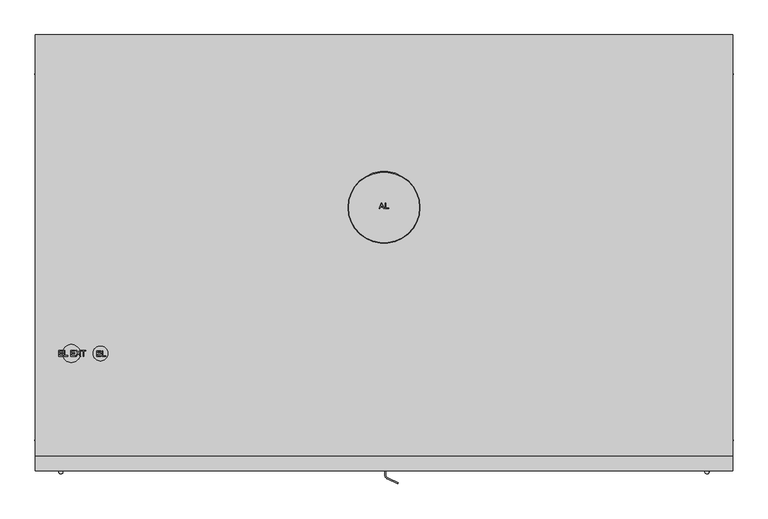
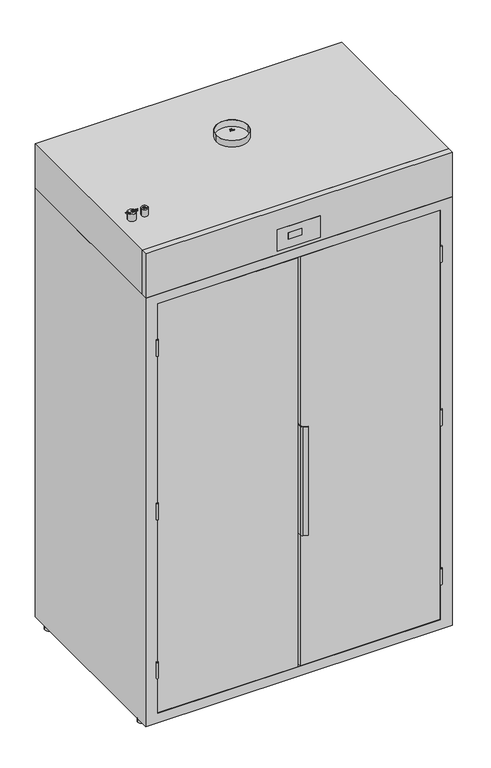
"""IFC4 building model written with IfcOpenShell, lengths in millimetres: proxy geometry, 12173360_EU_DC120WW : 52120001_EU_12173360_DC120WW."""

from ifc_helpers import new_model, si_unit, point, frame, frame_2d, origin, origin_with_axes, place, context, project, spatial, polyline, circle_curve, trimmed, segment, composite_curve, outline, extrude, faceted_brep, source, transform, mapped, element, save


def specialty_equipment_54005537(model_context):
    return source(origin(), model_context, "Body", "SolidModel", [
        extrude(outline(composite_curve([segment(trimmed(circle_curve(frame_2d((584.3887367, -697.3001502)), 15.9525445), [point((568.4361922, -697.3001502))], [point((600.3412813, -697.3001502))], False, "CARTESIAN"), True, "CONTINUOUS"), segment(trimmed(circle_curve(frame_2d((584.3887367, -697.3001502)), 15.9525445), [point((600.3412813, -697.3001502))], [point((568.4361922, -697.3001502))], False, "CARTESIAN"), True, "CONTINUOUS")], self_intersect=False)), origin_with_axes(), (0.0, 0.0, 1.0), 12.0900845),
        extrude(outline(composite_curve([segment(trimmed(circle_curve(frame_2d((-584.3887367, -697.3001502)), 15.9525445), [point((-600.3412813, -697.3001502))], [point((-568.4361922, -697.3001502))], False, "CARTESIAN"), True, "CONTINUOUS"), segment(trimmed(circle_curve(frame_2d((-584.3887367, -697.3001502)), 15.9525445), [point((-568.4361922, -697.3001502))], [point((-600.3412813, -697.3001502))], False, "CARTESIAN"), True, "CONTINUOUS")], self_intersect=False)), origin_with_axes(), (0.0, 0.0, 1.0), 12.0900845),
        extrude(outline(composite_curve([segment(trimmed(circle_curve(frame_2d((-584.3887367, -67.3001525)), 15.9968487), [point((-600.3855854, -67.3001525))], [point((-568.391888, -67.3001525))], False, "CARTESIAN"), True, "CONTINUOUS"), segment(trimmed(circle_curve(frame_2d((-584.3887367, -67.3001525)), 15.9968487), [point((-568.391888, -67.3001525))], [point((-600.3855854, -67.3001525))], False, "CARTESIAN"), True, "CONTINUOUS")], self_intersect=False)), origin_with_axes(), (0.0, 0.0, 1.0), 12.0900845),
        extrude(outline(composite_curve([segment(trimmed(circle_curve(frame_2d((584.3887367, -67.3001525)), 15.9807297), [point((568.4080071, -67.3001525))], [point((600.3694664, -67.3001525))], False, "CARTESIAN"), True, "CONTINUOUS"), segment(trimmed(circle_curve(frame_2d((584.3887367, -67.3001525)), 15.9807297), [point((600.3694664, -67.3001525))], [point((568.4080071, -67.3001525))], False, "CARTESIAN"), True, "CONTINUOUS")], self_intersect=False)), origin_with_axes(), (0.0, 0.0, 1.0), 12.0900845),
        extrude(outline(polyline([(11.7499399, -750.0), (-42.2500601, -750.0), (-42.2500601, -745.0), (11.7499399, -745.0), (11.7499399, -750.0)])), frame((0.0, 0.0, 1834.5900959), z_axis=(0.0, 0.0, 1.0), x_axis=(1.0, 0.0, 0.0)), (0.0, 0.0, 1.0), 26.9999322),
        extrude(outline(polyline([(1888.5900366, 83.7499399), (1888.5900366, -84.2500601), (1798.5899784, -84.2500601), (1798.5899784, 83.7499399), (1888.5900366, 83.7499399)]), holes=[polyline([(1861.5900281, 11.7499399), (1834.5900959, 11.7499399), (1834.5900959, -42.2500601), (1861.5900281, -42.2500601), (1861.5900281, 11.7499399)])]), frame((0.0, -750.0, 0.0), z_axis=(0.0, 1.0, 0.0), x_axis=(0.0, 0.0, 1.0)), (0.0, 0.0, 1.0), 5.0),
        extrude(outline(polyline([(-553.2057763, -0.8000794), (-5.0000599, -0.8000794), (-5.0000599, -20.0), (-553.2057763, -20.0), (-553.2057763, -0.8000794)])), frame((0.0, 0.0, 52.4706044), z_axis=(0.0, 0.0, 1.0), x_axis=(1.0, 0.0, 0.0)), (0.0, 0.0, 1.0), 1692.8839875),
        extrude(outline(polyline([(5.0999768, -0.8000794), (552.3004548, -0.8000794), (552.3004548, -20.0), (5.0999768, -20.0), (5.0999768, -0.8000794)])), frame((0.0, 0.0, 52.4706044), z_axis=(0.0, 0.0, 1.0), x_axis=(1.0, 0.0, 0.0)), (0.0, 0.0, 1.0), 1692.8839875),
        extrude(outline(polyline([(-5.0000599, -749.1999206), (-553.2057763, -749.1999206), (-553.2057763, -730.0), (-5.0000599, -730.0), (-5.0000599, -749.1999206)])), frame((0.0, 0.0, 52.4706044), z_axis=(0.0, 0.0, 1.0), x_axis=(1.0, 0.0, 0.0)), (0.0, 0.0, 1.0), 1692.8839875),
        extrude(outline(polyline([(552.3004548, -749.1999206), (5.0999768, -749.1999206), (5.0999768, -730.0), (552.3004548, -730.0), (552.3004548, -749.1999206)])), frame((0.0, 0.0, 52.4706044), z_axis=(0.0, 0.0, 1.0), x_axis=(1.0, 0.0, 0.0)), (0.0, 0.0, 1.0), 1692.8839875),
        faceted_brep([(600.0, 0.0, 1785.6678266), (-600.0, 0.0, 1785.6678266), (-600.0, -750.0, 1785.6678266), (600.0, -750.0, 1785.6678266), (600.0, 0.0, 12.0900845), (600.0, -750.0, 12.0900845), (-600.0, -750.0, 12.0900845), (-600.0, 0.0, 12.0900845), (552.3004548, 0.0, 1747.1501123), (-553.2057763, 0.0, 1747.1501123), (-553.2057763, 0.0, 51.1436193), (552.3004548, 0.0, 51.1436193), (-553.2057763, -750.0, 1747.1501123), (552.3004548, -750.0, 1747.1501123), (552.3004548, -750.0, 51.1436193), (-553.2057763, -750.0, 51.1436193), (552.3004548, -730.0, 1747.1501123), (-553.2057763, -730.0, 1747.1501123), (-553.2057763, -730.0, 51.1436193), (552.3004548, -730.0, 51.1436193), (552.3004548, -20.0, 1747.1501123), (552.3004548, -20.0, 51.1436193), (-553.2057763, -20.0, 51.1436193), (-553.2057763, -20.0, 1747.1501123)], [[[0, 1, 2, 3]], [[4, 5, 6, 7]], [[1, 0, 4, 7], [8, 9, 10, 11]], [[2, 1, 7, 6]], [[3, 2, 6, 5], [12, 13, 14, 15]], [[0, 3, 5, 4]], [[16, 17, 18, 19]], [[17, 16, 13, 12]], [[18, 17, 12, 15]], [[19, 18, 15, 14]], [[16, 19, 14, 13]], [[20, 21, 22, 23]], [[20, 23, 9, 8]], [[23, 22, 10, 9]], [[22, 21, 11, 10]], [[21, 20, 8, 11]]]),
        faceted_brep([(600.0, -725.84526, 1969.4224232), (-600.0, -725.84526, 1969.4224232), (-600.0, -750.0, 1969.4224232), (600.0, -750.0, 1969.4224232), (600.0, -725.84526, 1785.6678266), (600.0, -750.0, 1785.6678266), (-600.0, -750.0, 1785.6678266), (-600.0, -725.84526, 1785.6678266), (-84.2500601, -750.0, 1888.5900366), (83.7499399, -750.0, 1888.5900366), (83.7499399, -750.0, 1798.5899784), (-84.2500601, -750.0, 1798.5899784), (83.7499399, -745.0, 1888.5900366), (-84.2500601, -745.0, 1888.5900366), (-84.2500601, -745.0, 1798.5899784), (83.7499399, -745.0, 1798.5899784)], [[[0, 1, 2, 3]], [[4, 5, 6, 7]], [[1, 0, 4, 7]], [[2, 1, 7, 6]], [[3, 2, 6, 5], [8, 9, 10, 11]], [[0, 3, 5, 4]], [[12, 13, 14, 15]], [[13, 12, 9, 8]], [[14, 13, 8, 11]], [[15, 14, 11, 10]], [[12, 15, 10, 9]]]),
        extrude(outline(polyline([(600.0, 0.0), (600.0, -725.84526), (-600.0, -725.84526), (-600.0, 0.0), (600.0, 0.0)])), frame((0.0, 0.0, 1785.6678266), z_axis=(0.0, 0.0, 1.0), x_axis=(1.0, 0.0, 0.0)), (0.0, 0.0, 1.0), 183.7545966),
        extrude(outline(composite_curve([segment(polyline([(1.2999274, -722.2043963), (3.3220918, -722.2043963), (3.3220918, -757.3988413)]), True, "CONTINUOUS"), segment(trimmed(circle_curve(frame_2d((9.0328585, -757.3988413)), 5.7107667), [point((3.3220918, -757.3988413))], [point((6.7492802, -762.6331633))], True, "CARTESIAN"), True, "CONTINUOUS"), segment(polyline([(6.7492802, -762.6331633), (24.3505517, -770.840771), (23.5053152, -772.6533865), (5.9040437, -764.4457788)]), True, "CONTINUOUS"), segment(trimmed(circle_curve(frame_2d((9.296631, -757.2043963)), 7.9967037), [point((5.9040437, -764.4457788))], [point((1.2999274, -757.2043963))], False, "CARTESIAN"), True, "CONTINUOUS"), segment(polyline([(1.2999274, -757.2043963), (1.2999274, -722.2043963)]), True, "CONTINUOUS")], self_intersect=False)), frame((0.0, 0.0, 600.1494838), z_axis=(0.0, 0.0, 1.0), x_axis=(1.0, 0.0, 0.0)), (0.0, 0.0, 1.0), 450.0014684),
        extrude(outline(composite_curve([segment(trimmed(circle_curve(frame_2d((-555.6531514, -751.8665985)), 3.5338517), [point((-552.6524985, -750.0))], [point((-558.6538043, -750.0))], False, "CARTESIAN"), True, "CONTINUOUS"), segment(polyline([(-558.6538043, -750.0), (-552.6524985, -750.0)]), True, "CONTINUOUS")], self_intersect=False)), frame((0.0, 0.0, 856.8872749), z_axis=(0.0, 0.0, 1.0), x_axis=(1.0, 0.0, 0.0)), (0.0, 0.0, 1.0), 66.1712024),
        extrude(outline(composite_curve([segment(trimmed(circle_curve(frame_2d((-555.7885261, -751.8665985)), 3.5338517), [point((-552.7878732, -750.0))], [point((-558.789179, -750.0))], False, "CARTESIAN"), True, "CONTINUOUS"), segment(polyline([(-558.789179, -750.0), (-552.7878732, -750.0)]), True, "CONTINUOUS")], self_intersect=False)), frame((0.0, 0.0, 1533.5591163), z_axis=(0.0, 0.0, 1.0), x_axis=(1.0, 0.0, 0.0)), (0.0, 0.0, 1.0), 66.1712024),
        extrude(outline(composite_curve([segment(polyline([(552.3331265, -750.0), (558.3344323, -750.0)]), True, "CONTINUOUS"), segment(trimmed(circle_curve(frame_2d((555.3337794, -751.8665985)), 3.5338517), [point((558.3344323, -750.0))], [point((552.3331265, -750.0))], False, "CARTESIAN"), True, "CONTINUOUS")], self_intersect=False)), frame((0.0, 0.0, 1533.5279976), z_axis=(0.0, 0.0, 1.0), x_axis=(1.0, 0.0, 0.0)), (0.0, 0.0, 1.0), 66.1712024),
        extrude(outline(composite_curve([segment(polyline([(552.6524985, -750.0), (558.6538043, -750.0)]), True, "CONTINUOUS"), segment(trimmed(circle_curve(frame_2d((555.6531514, -751.8665985)), 3.5338517), [point((558.6538043, -750.0))], [point((552.6524985, -750.0))], False, "CARTESIAN"), True, "CONTINUOUS")], self_intersect=False)), frame((0.0, 0.0, 856.8872749), z_axis=(0.0, 0.0, 1.0), x_axis=(1.0, 0.0, 0.0)), (0.0, 0.0, 1.0), 66.1712024),
        extrude(outline(composite_curve([segment(polyline([(552.6524985, -750.0), (558.6538043, -750.0)]), True, "CONTINUOUS"), segment(trimmed(circle_curve(frame_2d((555.6531514, -751.8665985)), 3.5338517), [point((558.6538043, -750.0))], [point((552.6524985, -750.0))], False, "CARTESIAN"), True, "CONTINUOUS")], self_intersect=False)), frame((0.0, 0.0, 199.8034742), z_axis=(0.0, 0.0, 1.0), x_axis=(1.0, 0.0, 0.0)), (0.0, 0.0, 1.0), 66.1712024),
        extrude(outline(composite_curve([segment(trimmed(circle_curve(frame_2d((-555.6531514, -751.8665985)), 3.5338517), [point((-552.6524985, -750.0))], [point((-558.6538043, -750.0))], False, "CARTESIAN"), True, "CONTINUOUS"), segment(polyline([(-558.6538043, -750.0), (-552.6524985, -750.0)]), True, "CONTINUOUS")], self_intersect=False)), frame((0.0, 0.0, 199.8034742), z_axis=(0.0, 0.0, 1.0), x_axis=(1.0, 0.0, 0.0)), (0.0, 0.0, 1.0), 66.1712024),
        extrude(outline(polyline([(-494.173145, -553.7133435), (-494.173145, -543.6677125), (-486.9528478, -543.6677125), (-486.9528478, -544.9234163), (-492.9174412, -544.9234163), (-492.9174412, -547.905713), (-487.2667737, -547.905713), (-487.2667737, -549.1614169), (-492.9174412, -549.1614169), (-492.9174412, -552.4576396), (-486.7958848, -552.4576396), (-486.7958848, -553.7133435), (-494.173145, -553.7133435)])), frame((0.0, 0.0, 1999.4224232), z_axis=(0.0, 0.0, 1.0), x_axis=(1.0, 0.0, 0.0)), (0.0, 0.0, 1.0), 1.0),
        extrude(outline(polyline([(-484.912329, -553.7133435), (-484.912329, -543.6677125), (-483.6566251, -543.6677125), (-483.6566251, -552.4576396), (-478.6338096, -552.4576396), (-478.6338096, -553.7133435), (-484.912329, -553.7133435)])), frame((0.0, 0.0, 1999.4224232), z_axis=(0.0, 0.0, 1.0), x_axis=(1.0, 0.0, 0.0)), (0.0, 0.0, 1.0), 1.0),
        extrude(outline(polyline([(-559.5874686, -553.1798332), (-559.5874686, -543.1342021), (-552.3671713, -543.1342021), (-552.3671713, -544.389906), (-558.3317647, -544.389906), (-558.3317647, -547.3722027), (-552.6810973, -547.3722027), (-552.6810973, -548.6279066), (-558.3317647, -548.6279066), (-558.3317647, -551.9241293), (-552.2102083, -551.9241293), (-552.2102083, -553.1798332), (-559.5874686, -553.1798332)])), frame((0.0, 0.0, 1999.4224232), z_axis=(0.0, 0.0, 1.0), x_axis=(1.0, 0.0, 0.0)), (0.0, 0.0, 1.0), 1.0),
        extrude(outline(polyline([(-550.3266525, -553.1798332), (-550.3266525, -543.1342021), (-549.0709487, -543.1342021), (-549.0709487, -551.9241293), (-544.0481331, -551.9241293), (-544.0481331, -553.1798332), (-550.3266525, -553.1798332)])), frame((0.0, 0.0, 1999.4224232), z_axis=(0.0, 0.0, 1.0), x_axis=(1.0, 0.0, 0.0)), (0.0, 0.0, 1.0), 1.0),
        extrude(outline(polyline([(-538.7113917, -553.1798332), (-538.7113917, -543.1342021), (-531.4910944, -543.1342021), (-531.4910944, -544.389906), (-537.4556878, -544.389906), (-537.4556878, -547.3722027), (-531.8050203, -547.3722027), (-531.8050203, -548.6279066), (-537.4556878, -548.6279066), (-537.4556878, -551.9241293), (-531.3341314, -551.9241293), (-531.3341314, -553.1798332), (-538.7113917, -553.1798332)])), frame((0.0, 0.0, 1999.4224232), z_axis=(0.0, 0.0, 1.0), x_axis=(1.0, 0.0, 0.0)), (0.0, 0.0, 1.0), 1.0),
        extrude(outline(polyline([(-530.5493165, -553.1798332), (-526.6767453, -547.7057491), (-529.9214645, -543.1342021), (-528.4156009, -543.1342021), (-526.5884537, -545.7069236), (-525.9728645, -546.7100151), (-525.2518157, -545.6897557), (-523.4442889, -543.1342021), (-521.9163523, -543.1342021), (-525.1610715, -547.7204643), (-521.2885004, -553.1798332), (-522.794364, -553.1798332), (-525.3744431, -549.5402539), (-525.9115508, -548.7848696), (-526.5026145, -549.6138303), (-529.0213799, -553.1798332), (-530.5493165, -553.1798332)])), frame((0.0, 0.0, 1999.4224232), z_axis=(0.0, 0.0, 1.0), x_axis=(1.0, 0.0, 0.0)), (0.0, 0.0, 1.0), 1.0),
        extrude(outline(polyline([(-517.5213887, -553.1798332), (-517.5213887, -544.389906), (-520.8176114, -544.389906), (-520.8176114, -543.1342021), (-512.9694622, -543.1342021), (-512.9694622, -544.389906), (-516.2656849, -544.389906), (-516.2656849, -553.1798332), (-517.5213887, -553.1798332)])), frame((0.0, 0.0, 1999.4224232), z_axis=(0.0, 0.0, 1.0), x_axis=(1.0, 0.0, 0.0)), (0.0, 0.0, 1.0), 1.0),
        extrude(outline(composite_curve([segment(trimmed(circle_curve(frame_2d((-537.7749792, -548.3999575)), 15.4337534), [point((-553.2087326, -548.3999575))], [point((-522.3412258, -548.3999575))], False, "CARTESIAN"), True, "CONTINUOUS"), segment(trimmed(circle_curve(frame_2d((-537.7749792, -548.3999575)), 15.4337534), [point((-522.3412258, -548.3999575))], [point((-553.2087326, -548.3999575))], False, "CARTESIAN"), True, "CONTINUOUS")], self_intersect=False)), frame((0.0, 0.0, 1969.4224232), z_axis=(0.0, 0.0, 1.0), x_axis=(1.0, 0.0, 0.0)), (0.0, 0.0, 1.0), 30.0),
        extrude(outline(composite_curve([segment(trimmed(circle_curve(frame_2d((-487.7749757, -548.3999575)), 12.5470109), [point((-500.3219866, -548.3999575))], [point((-475.2279647, -548.3999575))], False, "CARTESIAN"), True, "CONTINUOUS"), segment(trimmed(circle_curve(frame_2d((-487.7749757, -548.3999575)), 12.5470109), [point((-475.2279647, -548.3999575))], [point((-500.3219866, -548.3999575))], False, "CARTESIAN"), True, "CONTINUOUS")], self_intersect=False)), frame((0.0, 0.0, 1969.4224232), z_axis=(0.0, 0.0, 1.0), x_axis=(1.0, 0.0, 0.0)), (0.0, 0.0, 1.0), 30.0),
        extrude(outline(polyline([(-8.547125, -299.2049759), (-4.5372113, -289.1593449), (-3.4679009, -289.1593449), (0.5420128, -299.2049759), (-0.7848149, -299.2049759), (-1.9350593, -296.0657162), (-6.0725055, -296.0657162), (-7.2202973, -299.2049759), (-8.547125, -299.2049759)]), holes=[polyline([(-5.6114267, -294.8100124), (-2.3936855, -294.8100124), (-3.2986752, -292.3402979), (-4.0025561, -290.4150488), (-4.6279555, -292.1244738), (-5.6114267, -294.8100124)])]), frame((0.0, 0.0, 1996.3677115), z_axis=(0.0, 0.0, 1.0), x_axis=(1.0, 0.0, 0.0)), (0.0, 0.0, 1.0), 1.0),
        extrude(outline(polyline([(1.8835558, -299.2049759), (1.8835558, -289.1593449), (3.1392597, -289.1593449), (3.1392597, -297.949272), (8.1620752, -297.949272), (8.1620752, -299.2049759), (1.8835558, -299.2049759)])), frame((0.0, 0.0, 1996.3677115), z_axis=(0.0, 0.0, 1.0), x_axis=(1.0, 0.0, 0.0)), (0.0, 0.0, 1.0), 1.0),
        extrude(outline(composite_curve([segment(trimmed(circle_curve(frame_2d((0.0, -297.1414113)), 61.825042), [point((-61.825042, -297.1414113))], [point((61.825042, -297.1414113))], False, "CARTESIAN"), True, "CONTINUOUS"), segment(trimmed(circle_curve(frame_2d((0.0, -297.1414113)), 61.825042), [point((61.825042, -297.1414113))], [point((-61.825042, -297.1414113))], False, "CARTESIAN"), True, "CONTINUOUS")], self_intersect=False), holes=[composite_curve([segment(trimmed(circle_curve(frame_2d((0.0, -297.1414113)), 60.825042), [point((-60.825042, -297.1414113))], [point((60.825042, -297.1414113))], True, "CARTESIAN"), True, "CONTINUOUS"), segment(trimmed(circle_curve(frame_2d((0.0, -297.1414113)), 60.825042), [point((60.825042, -297.1414113))], [point((-60.825042, -297.1414113))], True, "CARTESIAN"), True, "CONTINUOUS")], self_intersect=False)]), frame((0.0, 0.0, 1969.4224232), z_axis=(0.0, 0.0, 1.0), x_axis=(1.0, 0.0, 0.0)), (0.0, 0.0, 1.0), 26.9452883),
    ])


if __name__ == "__main__":
    model = new_model("IFC4")
    model_context = context("Model", 3, world=origin())
    ifc_project = project(units=[si_unit("LENGTHUNIT", "METRE", prefix="MILLI")], contexts=[model_context])
    site = spatial("IfcSite", under=ifc_project)
    building = spatial("IfcBuilding", under=site)
    placement = place(None, origin())
    specialty_equipment_shape = specialty_equipment_54005537(model_context)
    element("IfcBuildingElementProxy", 1, Name="12173360_EU_DC120WW : 52120001_EU_12173360_DC120WW", ObjectType="12173360_EU_DC120WW : 52120001_EU_12173360_DC120WW", at=placement, inside=building, context=model_context, shape_type="MappedRepresentation", body=[
        mapped(specialty_equipment_shape, transform((0.0, 0.0, 0.0), x_axis=(1.0, 0.0, 0.0), y_axis=(0.0, 1.0, 0.0), z_axis=(0.0, 0.0, 1.0))),
    ])
    save(model, "model.ifc")
